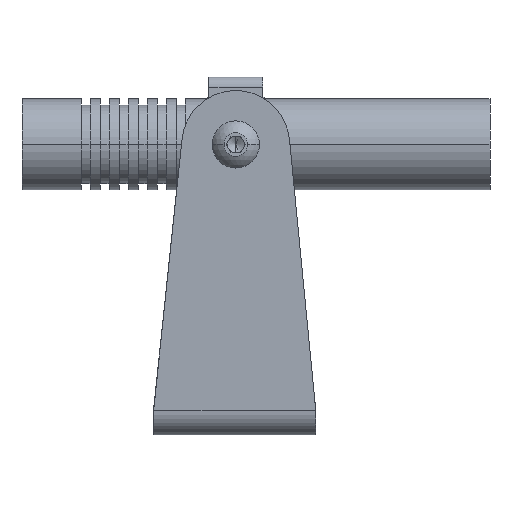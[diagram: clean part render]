
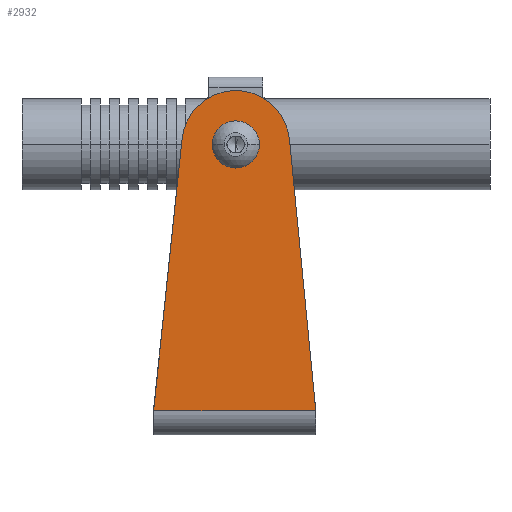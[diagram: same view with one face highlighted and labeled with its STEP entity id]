
A CAD part, left-side view. The second image highlights one B-rep face of the part: STEP entity #2932.
In plain terms, the highlighted planar face has unit normal (-1, 0, 0).
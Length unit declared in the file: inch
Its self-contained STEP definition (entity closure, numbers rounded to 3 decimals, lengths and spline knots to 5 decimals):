
#4 = EDGE_CURVE ( 'NONE', #988, #3335, #3862, .T. ) ;
#13 = VERTEX_POINT ( 'NONE', #1290 ) ;
#22 = LINE ( 'NONE', #1053, #856 ) ;
#35 = LINE ( 'NONE', #2676, #3587 ) ;
#65 = CARTESIAN_POINT ( 'NONE',  ( -0.80276, 0., 2.69263 ) ) ;
#89 = CARTESIAN_POINT ( 'NONE',  ( -0.80276, -0.49768, 2.74077 ) ) ;
#233 = DIRECTION ( 'NONE',  ( 0., 0., -1. ) ) ;
#290 = CARTESIAN_POINT ( 'NONE',  ( -0.80276, 0., 2.69263 ) ) ;
#355 = DIRECTION ( 'NONE',  ( 0., 0., -1. ) ) ;
#366 = VECTOR ( 'NONE', #1896, 39.37008 ) ;
#419 = CARTESIAN_POINT ( 'NONE',  ( -0.80276, -0.73957, 0.225 ) ) ;
#608 = VERTEX_POINT ( 'NONE', #419 ) ;
#683 = ORIENTED_EDGE ( 'NONE', *, *, #2207, .F. ) ;
#685 = CARTESIAN_POINT ( 'NONE',  ( -0.80276, 0., 2.69263 ) ) ;
#856 = VECTOR ( 'NONE', #1011, 39.37008 ) ;
#907 = ORIENTED_EDGE ( 'NONE', *, *, #1428, .F. ) ;
#988 = VERTEX_POINT ( 'NONE', #3566 ) ;
#1011 = DIRECTION ( 'NONE',  ( 0., -0.096, -0.995 ) ) ;
#1053 = CARTESIAN_POINT ( 'NONE',  ( -0.80276, -0.49768, 2.74077 ) ) ;
#1180 = AXIS2_PLACEMENT_3D ( 'NONE', #2774, #1514, #3822 ) ;
#1276 = CARTESIAN_POINT ( 'NONE',  ( -0.80276, 0.76043, 0.225 ) ) ;
#1290 = CARTESIAN_POINT ( 'NONE',  ( -0.80276, 0.49726, 2.74488 ) ) ;
#1419 = DIRECTION ( 'NONE',  ( 1., 0., 0. ) ) ;
#1428 = EDGE_CURVE ( 'NONE', #1535, #608, #3175, .T. ) ;
#1435 = CARTESIAN_POINT ( 'NONE',  ( -0.80276, -0.73957, 0.24037 ) ) ;
#1437 = VERTEX_POINT ( 'NONE', #3076 ) ;
#1439 = PLANE ( 'NONE',  #1180 ) ;
#1443 = FACE_BOUND ( 'NONE', #3331, .T. ) ;
#1476 = VERTEX_POINT ( 'NONE', #1276 ) ;
#1514 = DIRECTION ( 'NONE',  ( 1., 0., 0. ) ) ;
#1525 = ORIENTED_EDGE ( 'NONE', *, *, #1763, .F. ) ;
#1535 = VERTEX_POINT ( 'NONE', #1435 ) ;
#1683 = EDGE_CURVE ( 'NONE', #2885, #1535, #22, .T. ) ;
#1745 = CIRCLE ( 'NONE', #2057, 0.5 ) ;
#1749 = EDGE_CURVE ( 'NONE', #3335, #988, #3770, .T. ) ;
#1763 = EDGE_CURVE ( 'NONE', #1437, #13, #2576, .T. ) ;
#1896 = DIRECTION ( 'NONE',  ( 0., -0.105, 0.995 ) ) ;
#2057 = AXIS2_PLACEMENT_3D ( 'NONE', #65, #1419, #233 ) ;
#2099 = CARTESIAN_POINT ( 'NONE',  ( -0.80276, 0., 2.53113 ) ) ;
#2119 = AXIS2_PLACEMENT_3D ( 'NONE', #290, #3799, #3161 ) ;
#2142 = DIRECTION ( 'NONE',  ( 0., 1., 0. ) ) ;
#2207 = EDGE_CURVE ( 'NONE', #1476, #1437, #35, .T. ) ;
#2445 = DIRECTION ( 'NONE',  ( 1., 0., 0. ) ) ;
#2576 = LINE ( 'NONE', #3489, #366 ) ;
#2619 = EDGE_LOOP ( 'NONE', ( #3315, #907, #2650, #4082, #1525, #683 ) ) ;
#2650 = ORIENTED_EDGE ( 'NONE', *, *, #1683, .F. ) ;
#2676 = CARTESIAN_POINT ( 'NONE',  ( -0.80276, 0.76043, -3.90801 ) ) ;
#2702 = ORIENTED_EDGE ( 'NONE', *, *, #4, .T. ) ;
#2774 = CARTESIAN_POINT ( 'NONE',  ( -0.80276, 0., -3.90801 ) ) ;
#2885 = VERTEX_POINT ( 'NONE', #89 ) ;
#2932 = ADVANCED_FACE ( 'NONE', ( #4038, #1443 ), #1439, .F. ) ;
#2978 = CARTESIAN_POINT ( 'NONE',  ( -0.80276, -0.73957, -3.90801 ) ) ;
#3001 = EDGE_CURVE ( 'NONE', #13, #2885, #1745, .T. ) ;
#3018 = VECTOR ( 'NONE', #355, 39.37008 ) ;
#3076 = CARTESIAN_POINT ( 'NONE',  ( -0.80276, 0.76043, 0.24037 ) ) ;
#3161 = DIRECTION ( 'NONE',  ( 0., 0., -1. ) ) ;
#3175 = LINE ( 'NONE', #2978, #3018 ) ;
#3179 = EDGE_CURVE ( 'NONE', #608, #1476, #3220, .T. ) ;
#3220 = LINE ( 'NONE', #4052, #3860 ) ;
#3274 = ORIENTED_EDGE ( 'NONE', *, *, #1749, .T. ) ;
#3315 = ORIENTED_EDGE ( 'NONE', *, *, #3179, .F. ) ;
#3331 = EDGE_LOOP ( 'NONE', ( #3274, #2702 ) ) ;
#3335 = VERTEX_POINT ( 'NONE', #2099 ) ;
#3489 = CARTESIAN_POINT ( 'NONE',  ( -0.80276, 0.76043, 0.24037 ) ) ;
#3566 = CARTESIAN_POINT ( 'NONE',  ( -0.80276, 0., 2.85413 ) ) ;
#3584 = DIRECTION ( 'NONE',  ( 0., 0., 1. ) ) ;
#3587 = VECTOR ( 'NONE', #3584, 39.37008 ) ;
#3742 = DIRECTION ( 'NONE',  ( 0., 0., -1. ) ) ;
#3770 = CIRCLE ( 'NONE', #2119, 0.1615 ) ;
#3799 = DIRECTION ( 'NONE',  ( 1., 0., 0. ) ) ;
#3822 = DIRECTION ( 'NONE',  ( 0., 0., -1. ) ) ;
#3830 = AXIS2_PLACEMENT_3D ( 'NONE', #685, #2445, #3742 ) ;
#3860 = VECTOR ( 'NONE', #2142, 39.37008 ) ;
#3862 = CIRCLE ( 'NONE', #3830, 0.1615 ) ;
#4038 = FACE_OUTER_BOUND ( 'NONE', #2619, .T. ) ;
#4052 = CARTESIAN_POINT ( 'NONE',  ( -0.80276, 0., 0.225 ) ) ;
#4082 = ORIENTED_EDGE ( 'NONE', *, *, #3001, .F. ) ;
